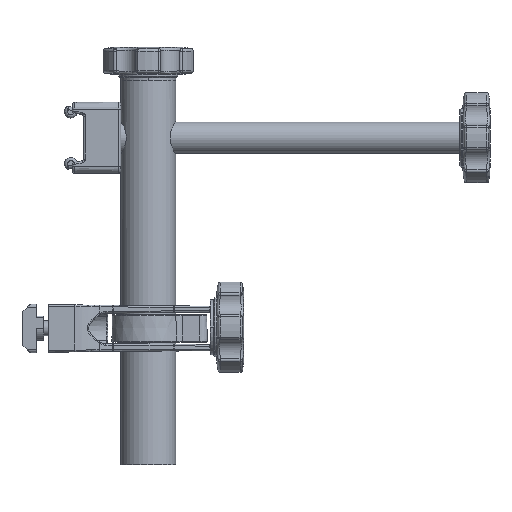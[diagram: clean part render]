
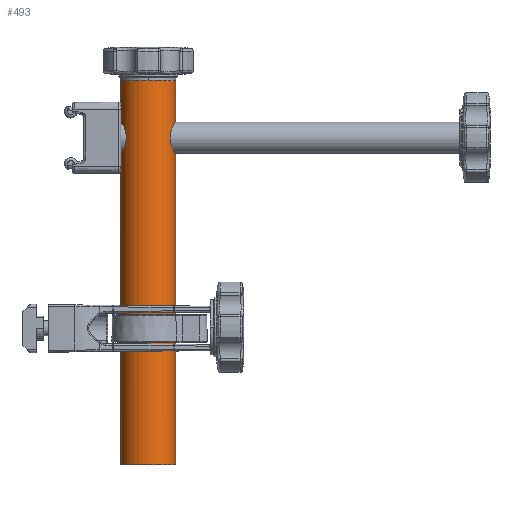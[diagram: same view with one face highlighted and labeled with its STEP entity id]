
A CAD part, top view. The second image highlights one B-rep face of the part: STEP entity #493.
In plain terms, the highlighted cylindrical face has radius 11.113 mm (diameter 22.225 mm), a partial arc.
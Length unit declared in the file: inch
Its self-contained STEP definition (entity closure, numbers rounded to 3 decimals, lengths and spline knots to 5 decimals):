
#101=CARTESIAN_POINT('',(0.,4.92935,-0.4375));
#102=CARTESIAN_POINT('',(-0.01567,4.92935,
-0.4375));
#103=CARTESIAN_POINT('',(-0.04808,4.93209,
-0.43583));
#104=CARTESIAN_POINT('',(-0.09891,4.9465,
-0.42721));
#105=CARTESIAN_POINT('',(-0.14713,4.97158,
-0.41297));
#106=CARTESIAN_POINT('',(-0.1895,5.0062,
-0.3951));
#107=CARTESIAN_POINT('',(-0.22368,5.04833,
-0.37653));
#108=CARTESIAN_POINT('',(-0.2486,5.09634,
-0.36027));
#109=CARTESIAN_POINT('',(-0.26296,5.14722,
-0.3497));
#110=CARTESIAN_POINT('',(-0.26565,5.17945,
-0.34761));
#111=CARTESIAN_POINT('',(-0.26565,5.195,
-0.34761));
#113=CARTESIAN_POINT('',(0.,0.,0.));
#114=DIRECTION('',(0.,-1.,0.));
#115=DIRECTION('',(0.,0.,1.));
#116=AXIS2_PLACEMENT_3D('',#113,#114,#115);
#133=DIRECTION('',(0.,-1.,0.));
#134=VECTOR('',#133,4.92935);
#135=CARTESIAN_POINT('',(0.,4.92935,-0.4375));
#136=LINE('',#135,#134);
#137=DIRECTION('',(0.,-1.,0.));
#138=VECTOR('',#137,0.63935);
#139=CARTESIAN_POINT('',(0.,6.1,-0.4375));
#140=LINE('',#139,#138);
#141=DIRECTION('',(0.,-1.,0.));
#142=VECTOR('',#141,0.63935);
#143=CARTESIAN_POINT('',(0.,6.1,0.4375));
#144=LINE('',#143,#142);
#145=DIRECTION('',(0.,-1.,0.));
#146=VECTOR('',#145,4.92935);
#147=CARTESIAN_POINT('',(0.,4.92935,0.4375));
#148=LINE('',#147,#146);
#168=CARTESIAN_POINT('',(-0.26565,5.195,
-0.34761));
#169=CARTESIAN_POINT('',(-0.26565,5.21034,
-0.34761));
#170=CARTESIAN_POINT('',(-0.26305,5.24217,
-0.34963));
#171=CARTESIAN_POINT('',(-0.24887,5.29286,
-0.36006));
#172=CARTESIAN_POINT('',(-0.22455,5.34031,
-0.376));
#173=CARTESIAN_POINT('',(-0.19031,5.38303,
-0.39471));
#174=CARTESIAN_POINT('',(-0.14798,5.41786,
-0.41267));
#175=CARTESIAN_POINT('',(-0.09951,5.44331,
-0.42709));
#176=CARTESIAN_POINT('',(-0.04806,5.45794,
-0.43585));
#177=CARTESIAN_POINT('',(-0.01562,5.46065,-0.4375));
#178=CARTESIAN_POINT('',(0.,5.46065,-0.4375));
#270=CARTESIAN_POINT('',(-0.26565,5.195,0.34762));
#271=CARTESIAN_POINT('',(-0.26565,5.17968,
0.34762));
#272=CARTESIAN_POINT('',(-0.26306,5.14788,
0.34963));
#273=CARTESIAN_POINT('',(-0.2489,5.09721,
0.36005));
#274=CARTESIAN_POINT('',(-0.22459,5.04975,
0.37597));
#275=CARTESIAN_POINT('',(-0.19036,5.00702,
0.39469));
#276=CARTESIAN_POINT('',(-0.14802,4.97216,
0.41265));
#277=CARTESIAN_POINT('',(-0.09954,4.9467,
0.42709));
#278=CARTESIAN_POINT('',(-0.04806,4.93206,
0.43585));
#279=CARTESIAN_POINT('',(-0.01562,4.92935,0.4375));
#280=CARTESIAN_POINT('',(0.,4.92935,0.4375));
#302=CARTESIAN_POINT('',(0.,5.46065,0.4375));
#303=CARTESIAN_POINT('',(-0.01567,5.46065,0.4375));
#304=CARTESIAN_POINT('',(-0.04808,5.45791,
0.43583));
#305=CARTESIAN_POINT('',(-0.09892,5.4435,
0.42721));
#306=CARTESIAN_POINT('',(-0.14714,5.41842,
0.41297));
#307=CARTESIAN_POINT('',(-0.18951,5.38379,
0.3951));
#308=CARTESIAN_POINT('',(-0.22368,5.34166,
0.37652));
#309=CARTESIAN_POINT('',(-0.2486,5.29365,
0.36026));
#310=CARTESIAN_POINT('',(-0.26296,5.24278,
0.3497));
#311=CARTESIAN_POINT('',(-0.26565,5.21055,
0.34762));
#312=CARTESIAN_POINT('',(-0.26565,5.195,0.34762));
#319=CARTESIAN_POINT('',(0.,6.1,0.));
#320=DIRECTION('',(0.,1.,0.));
#321=DIRECTION('',(0.,0.,-1.));
#322=AXIS2_PLACEMENT_3D('',#319,#320,#321);
#351=CARTESIAN_POINT('',(-0.26565,5.195,
-0.34761));
#353=VERTEX_POINT('',#351);
#362=CARTESIAN_POINT('',(-0.26565,5.195,0.34762));
#364=VERTEX_POINT('',#362);
#366=CARTESIAN_POINT('',(0.,4.92935,0.4375));
#367=CARTESIAN_POINT('',(0.,0.,0.4375));
#368=VERTEX_POINT('',#366);
#369=VERTEX_POINT('',#367);
#370=CARTESIAN_POINT('',(0.,6.1,0.4375));
#371=CARTESIAN_POINT('',(0.,5.46065,0.4375));
#372=VERTEX_POINT('',#370);
#373=VERTEX_POINT('',#371);
#374=CARTESIAN_POINT('',(0.,6.1,-0.4375));
#375=CARTESIAN_POINT('',(0.,5.46065,-0.4375));
#376=VERTEX_POINT('',#374);
#377=VERTEX_POINT('',#375);
#378=CARTESIAN_POINT('',(0.,4.92935,-0.4375));
#379=CARTESIAN_POINT('',(0.,0.,-0.4375));
#380=VERTEX_POINT('',#378);
#381=VERTEX_POINT('',#379);
#472=CARTESIAN_POINT('',(0.,6.1,0.));
#473=DIRECTION('',(0.,-1.,0.));
#474=DIRECTION('',(0.,0.,-1.));
#475=AXIS2_PLACEMENT_3D('',#472,#473,#474);
#476=CYLINDRICAL_SURFACE('',#475,0.4375);
#477=ORIENTED_EDGE('',*,*,#461,.T.);
#478=ORIENTED_EDGE('',*,*,#451,.F.);
#479=ORIENTED_EDGE('',*,*,#424,.T.);
#481=ORIENTED_EDGE('',*,*,#480,.T.);
#482=ORIENTED_EDGE('',*,*,#446,.F.);
#484=ORIENTED_EDGE('',*,*,#483,.T.);
#485=ORIENTED_EDGE('',*,*,#442,.T.);
#487=ORIENTED_EDGE('',*,*,#486,.T.);
#489=ORIENTED_EDGE('',*,*,#488,.T.);
#490=ORIENTED_EDGE('',*,*,#436,.T.);
#491=EDGE_LOOP('',(#477,#478,#479,#481,#482,#484,#485,#487,#489,#490));
#492=FACE_OUTER_BOUND('',#491,.F.);
#112=B_SPLINE_CURVE_WITH_KNOTS('',3,(#101,#102,#103,#104,#105,#106,#107,#108,
#109,#110,#111),.UNSPECIFIED.,.F.,.F.,(4,1,1,1,1,1,1,1,4),(0.,0.125,0.25,
0.375,0.5,0.625,0.75,0.875,1.),.UNSPECIFIED.);
#117=CIRCLE('',#116,0.4375);
#179=B_SPLINE_CURVE_WITH_KNOTS('',3,(#168,#169,#170,#171,#172,#173,#174,#175,
#176,#177,#178),.UNSPECIFIED.,.F.,.F.,(4,1,1,1,1,1,1,1,4),(0.,0.125,0.25,
0.375,0.5,0.625,0.75,0.875,1.),.UNSPECIFIED.);
#281=B_SPLINE_CURVE_WITH_KNOTS('',3,(#270,#271,#272,#273,#274,#275,#276,#277,
#278,#279,#280),.UNSPECIFIED.,.F.,.F.,(4,1,1,1,1,1,1,1,4),(0.,0.125,0.25,
0.375,0.5,0.625,0.75,0.875,1.),.UNSPECIFIED.);
#313=B_SPLINE_CURVE_WITH_KNOTS('',3,(#302,#303,#304,#305,#306,#307,#308,#309,
#310,#311,#312),.UNSPECIFIED.,.F.,.F.,(4,1,1,1,1,1,1,1,4),(0.,0.125,0.25,
0.375,0.5,0.625,0.75,0.875,1.),.UNSPECIFIED.);
#323=CIRCLE('',#322,0.4375);
#424=EDGE_CURVE('',#380,#353,#112,.T.);
#436=EDGE_CURVE('',#368,#369,#148,.T.);
#442=EDGE_CURVE('',#372,#373,#144,.T.);
#446=EDGE_CURVE('',#376,#377,#140,.T.);
#451=EDGE_CURVE('',#380,#381,#136,.T.);
#461=EDGE_CURVE('',#369,#381,#117,.T.);
#480=EDGE_CURVE('',#353,#377,#179,.T.);
#483=EDGE_CURVE('',#376,#372,#323,.T.);
#486=EDGE_CURVE('',#373,#364,#313,.T.);
#488=EDGE_CURVE('',#364,#368,#281,.T.);
#493=ADVANCED_FACE('',(#492),#476,.T.);
